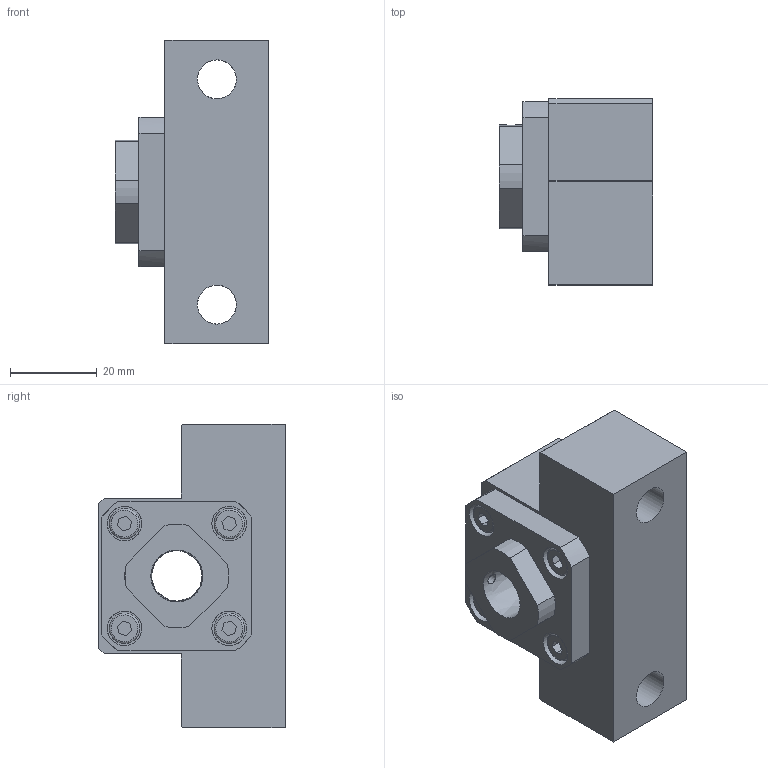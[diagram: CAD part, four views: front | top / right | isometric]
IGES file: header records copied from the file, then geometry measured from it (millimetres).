
Global section: file name: Опора винта EK12 01.00; native system: Autodesk Inventor 2016; preprocessor: unknown; author: TraceParts; organization: TraceParts S.A.; date: 20170127.142110; units: millimetre
Bounding box: 35.5 x 43 x 70 mm (x, y, z)
Volume: 58003.1 mm3; surface area: 15307.9 mm2
Topology: 1 solids, 1 shells, 133 faces, 349 edges, 244 vertices
Faces by surface type: bspline 133
